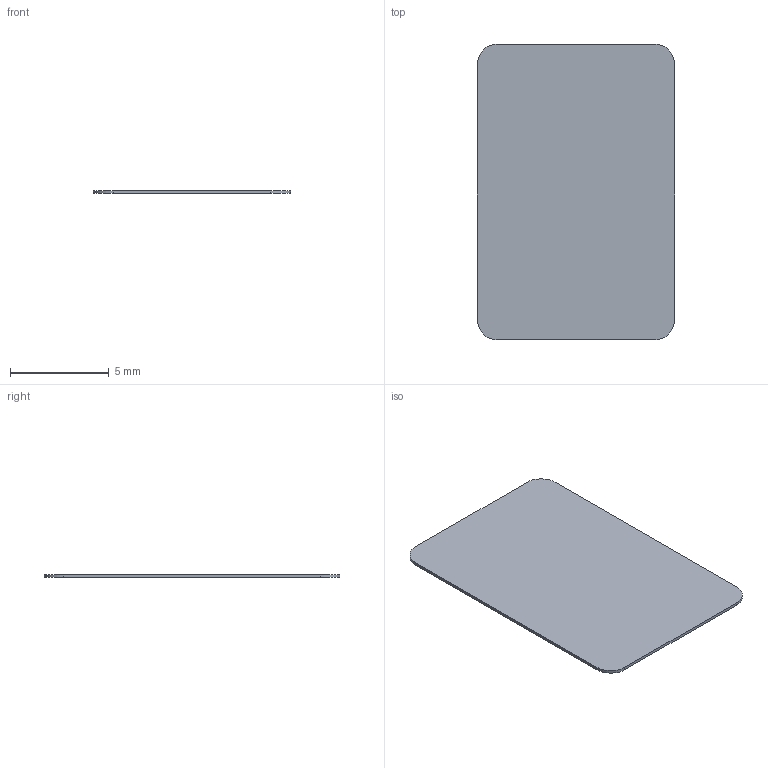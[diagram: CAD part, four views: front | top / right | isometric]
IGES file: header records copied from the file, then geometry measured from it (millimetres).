
Start section:  PTC IGES file: 70h20011-00_prt.igs
Global section: file name: 70h20011-00_prt.igs; native system: Pro/ENGINEER by Parametric Technology Corporation; preprocessor: 2000030; author: ECaille; organization: Unknown; date: 000803.091917; units: millimetre
Bounding box: 10 x 15 x 0.15 mm (x, y, z)
Surface area: 305.5 mm2 (no closed solid volume)
Topology: 0 solids, 0 shells, 10 faces, 76 edges, 104 vertices
Faces by surface type: bspline 6, revolution 4
